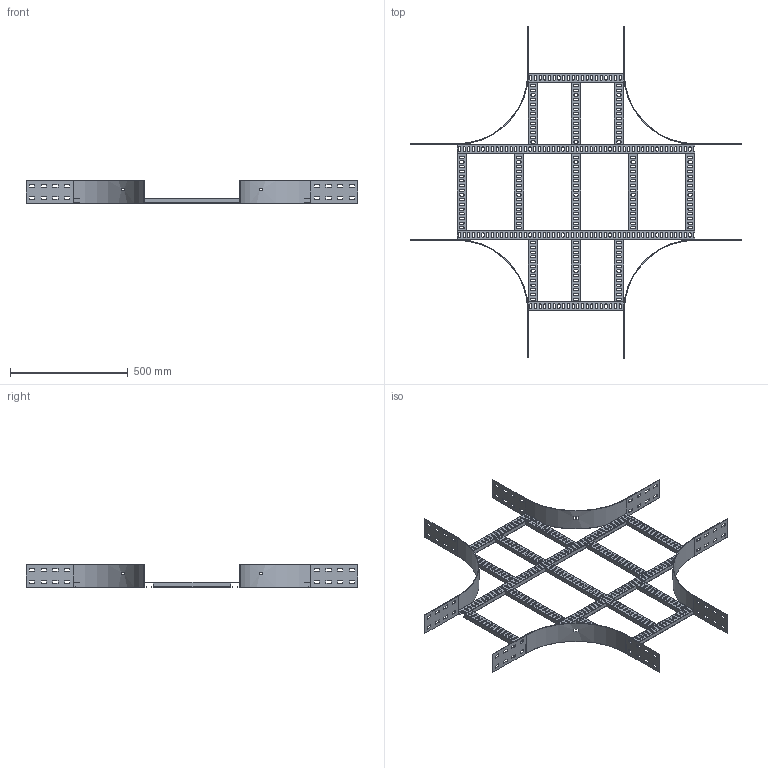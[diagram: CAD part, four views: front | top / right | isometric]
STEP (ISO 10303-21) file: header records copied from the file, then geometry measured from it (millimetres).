
FILE_DESCRIPTION(/* description */ ('','CAx-IF Rec.Pracs.---Representation and Presentation of Product Manufacturing Information (PMI)---4.0---2014-10-13'),/* implementation_level */ '2;1');
FILE_NAME(/* name */ 'Eurostrut_ECO100-400-300_Crossover for Cable Ladder ECL.step',/* time_stamp */ '2026-09-03T13:27:11+02:00',/* author */ (''),/* organization */ (''),/* preprocessor_version */ 'ST-DEVELOPER v20.1',/* originating_system */ 'Autodesk Revit 2027 27.2.0.39',/* authorisation */ '');
FILE_SCHEMA (('AP242_MANAGED_MODEL_BASED_3D_ENGINEERING_MIM_LF { 1 0 10303 442 2 1 4 }'));
Length unit declared in the file: millimetre
Products named in the file (10): TopLevelAssembly; Sweep; Sweep_1; Sweep_2; Sweep_3; Eurostrut_Cable Ladder_Rung_With slots; Eurostrut_Cable Ladder_Rung_With slots_1; Eurostrut_Cable Ladder_Rung Array Straight_Slotted; Eurostrut_Cable Ladder_Rung Array Straight_Slotted_1; Eurostrut_Cable Ladder_Accessory End_54-94-142
Assembly tree (19 placements, depth 2):
  TopLevelAssembly
    Sweep
    Sweep_1
    Eurostrut_Cable Ladder_Rung_With slots  x2
    Eurostrut_Cable Ladder_Rung_With slots_1  x2
    Sweep_2
    Sweep_3
    Eurostrut_Cable Ladder_Rung Array Straight_Slotted
    Eurostrut_Cable Ladder_Rung Array Straight_Slotted_1  x2
    Eurostrut_Cable Ladder_Accessory End_54-94-142  x8
Bounding box: 1411 x 1411 x 94 mm (x, y, z)
Volume: 1676149.2 mm3; surface area: 1698497.6 mm2
Topology: 27 solids, 27 shells, 1814 faces, 5280 edges, 3520 vertices
Faces by surface type: plane 1146, bspline 600, cylinder 68
Entity records: 45442 total; most frequent: CARTESIAN_POINT 17703, ORIENTED_EDGE 5928, DIRECTION 5170, EDGE_CURVE 2964, LINE 2092, VECTOR 2092, VERTEX_POINT 1976, AXIS2_PLACEMENT_3D 1539
